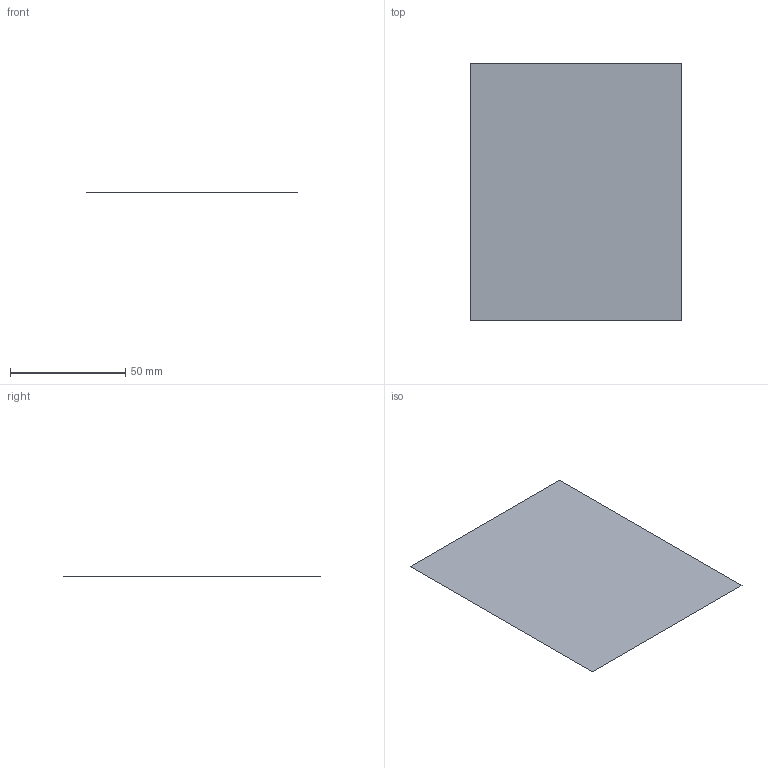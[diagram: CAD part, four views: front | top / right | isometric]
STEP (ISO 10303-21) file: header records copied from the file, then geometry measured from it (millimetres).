
FILE_DESCRIPTION(('CATIA V5 STEP Exchange'),'2;1');
FILE_NAME('C:\_Andres\UNIVERSIDAD\IQS\ASIGNATURAS\DAO\EXF\EXF-15161c\1original\Aranda_Gil_Ej06-calculo_v2.stp','2016-03-04T20:57:41+00:00',('none'),('none'),'CATIA Version 5 Release 20 SP 1 (IN-10)','CATIA V5 STEP AP203','none');
FILE_SCHEMA(('CONFIG_CONTROL_DESIGN'));
Length unit declared in the file: millimetre
Products named in the file (1): Aranda_Gil_Ej06-calculo_v2
Bounding box: 92 x 112 x 0 mm (x, y, z)
Surface area: 10304 mm2 (no closed solid volume)
Topology: 0 solids, 1 shells, 1 faces, 8 edges, 9 vertices
Faces by surface type: plane 1
Entity records: 130 total; most frequent: CARTESIAN_POINT 23, DIRECTION 12, VECTOR 8, LINE 8, COMPOSITE_CURVE_SEGMENT 4, ORIENTED_EDGE 4, CC_DESIGN_PERSON_AND_ORGANIZATION_ASSIGNMENT 4, PERSON_AND_ORGANIZATION_ROLE 4
